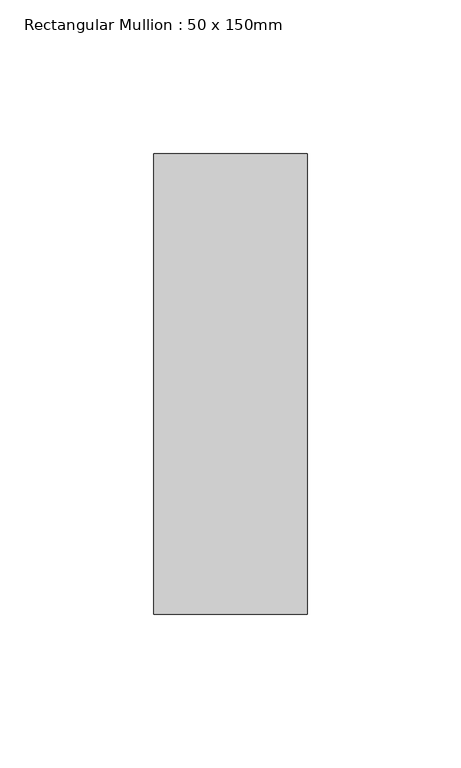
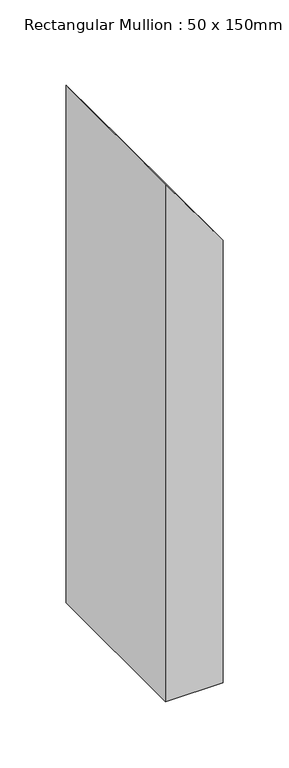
"""IFC4 building model written with IfcOpenShell, lengths in millimetres: member geometry, Rectangular Mullion : 50 x 150mm."""

from ifc_helpers import new_model, si_unit, frame, origin, place, context, project, spatial, polyline, outline, extrude, source, transform, mapped, element, save


def rectangular_mullion_50_x_150mm_c3f78bae(model_context):
    return source(origin(), model_context, "Body", "SweptSolid", [
        extrude(outline(polyline([(0.0, 0.0), (69.4032756, -50.0), (-407.2594366, -50.0), (-407.2594366, 0.0), (0.0, 0.0)])), frame((0.0, -75.0, 0.0), z_axis=(0.0, 1.0, 0.0), x_axis=(0.0, 0.0, 1.0)), (0.0, 0.0, 1.0), 150.0),
    ])


if __name__ == "__main__":
    model = new_model("IFC4")
    model_context = context("Model", 3, world=origin())
    ifc_project = project(units=[si_unit("LENGTHUNIT", "METRE", prefix="MILLI")], contexts=[model_context])
    site = spatial("IfcSite", under=ifc_project)
    building = spatial("IfcBuilding", under=site)
    placement = place(None, origin())
    rectangular_mullion_50_x_150mm_shape = rectangular_mullion_50_x_150mm_c3f78bae(model_context)
    element("IfcMember", 1, ObjectType="Rectangular Mullion : 50 x 150mm", at=placement, inside=building, context=model_context, shape_type="MappedRepresentation", body=[
        mapped(rectangular_mullion_50_x_150mm_shape, transform((0.0, 0.0, 0.0), x_axis=(1.0, 0.0, 0.0), y_axis=(0.0, 1.0, 0.0), z_axis=(0.0, 0.0, 1.0))),
    ])
    save(model, "model.ifc")
